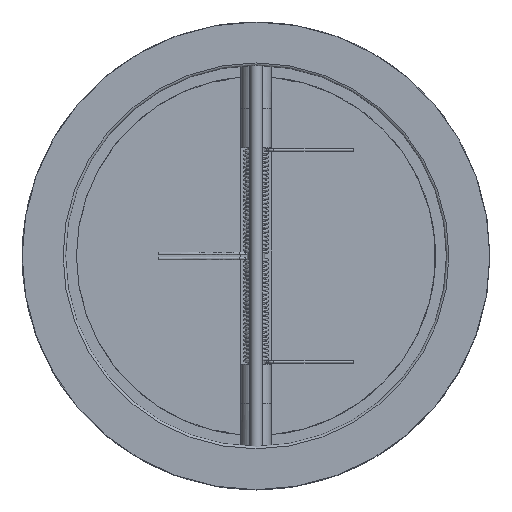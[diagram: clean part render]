
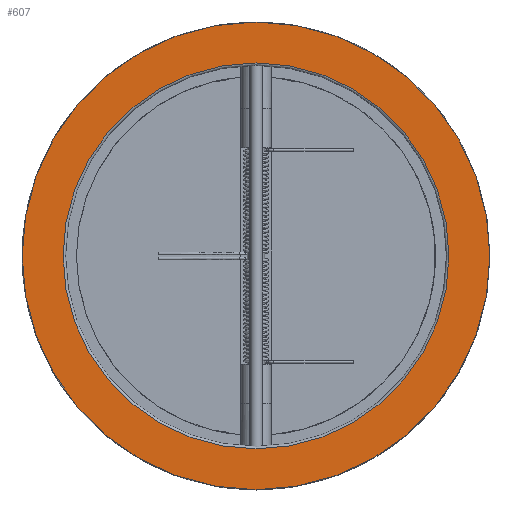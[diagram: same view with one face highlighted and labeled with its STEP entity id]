
A CAD part, top view. The second image highlights one B-rep face of the part: STEP entity #607.
In plain terms, the highlighted planar face has unit normal (0, 0, 1).
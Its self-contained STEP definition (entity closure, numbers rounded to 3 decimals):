
#607 = ADVANCED_FACE( '', ( #1393, #1394 ), #1395, .F. );
#1393 = FACE_BOUND( '', #8924, .T. );
#1394 = FACE_OUTER_BOUND( '', #8925, .T. );
#1395 = PLANE( '', #8926 );
#8924 = EDGE_LOOP( '', ( #16130 ) );
#8925 = EDGE_LOOP( '', ( #16131 ) );
#8926 = AXIS2_PLACEMENT_3D( '', #16132, #16133, #16134 );
#16130 = ORIENTED_EDGE( '', *, *, #17544, .T. );
#16131 = ORIENTED_EDGE( '', *, *, #17566, .F. );
#16132 = CARTESIAN_POINT( '', ( 0., 0., 57. ) );
#16133 = DIRECTION( '', ( 0., 0., -1. ) );
#16134 = DIRECTION( '', ( -1., 0., 0. ) );
#17544 = EDGE_CURVE( '', #18792, #18792, #18793, .T. );
#17566 = EDGE_CURVE( '', #18823, #18823, #18824, .T. );
#18792 = VERTEX_POINT( '', #26086 );
#18793 = CIRCLE( '', #26087, 158. );
#18823 = VERTEX_POINT( '', #26368 );
#18824 = CIRCLE( '', #26369, 191.5 );
#26086 = CARTESIAN_POINT( '', ( -158., 0., 57. ) );
#26087 = AXIS2_PLACEMENT_3D( '', #27954, #27955, #27956 );
#26368 = CARTESIAN_POINT( '', ( 191.5, 0., 57. ) );
#26369 = AXIS2_PLACEMENT_3D( '', #27972, #27973, #27974 );
#27954 = CARTESIAN_POINT( '', ( 0., 0., 57. ) );
#27955 = DIRECTION( '', ( 0., 0., -1. ) );
#27956 = DIRECTION( '', ( -1., 0., 0. ) );
#27972 = CARTESIAN_POINT( '', ( 0., 0., 57. ) );
#27973 = DIRECTION( '', ( 0., 0., -1. ) );
#27974 = DIRECTION( '', ( 1., 0., 0. ) );
